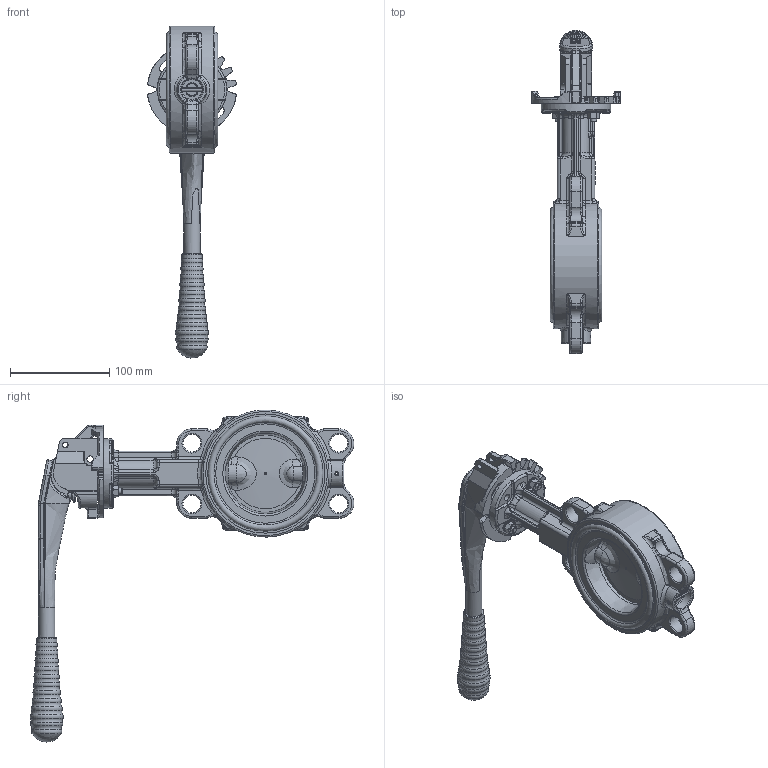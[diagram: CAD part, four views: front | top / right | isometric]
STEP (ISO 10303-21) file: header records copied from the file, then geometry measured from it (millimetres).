
FILE_DESCRIPTION((''),'2;1');
FILE_NAME('K:\Inventor\1 Artikel\10) Absperrklappen\10a) manuell\ABO Valve\890-GGG, 994B\890-GGG, DN80\890-GGG, DN80, 3D\890-GGG, DN80, PN6-16, HH, 3D.stp','2019-08-13T10:59:40',('claudia'),(''),'Autodesk Inventor 2013','Autodesk Inventor 2013','');
FILE_SCHEMA(('AUTOMOTIVE_DESIGN { 1 0 10303 214 1 1 1 1 }'));
Length unit declared in the file: millimetre
Products named in the file (1): Bauteil3
Bounding box: 89.17 x 325.91 x 334.17 mm (x, y, z)
Surface area: 155598.1 mm2
Topology: 8 solids, 9 shells, 2288 faces, 5942 edges, 3707 vertices
Faces by surface type: bspline 822, plane 736, cylinder 389, torus 218, cone 91, sphere 32
Full cylindrical faces by diameter (mm): 3.85 x1, 4 x2, 4.2 x1, 5 x2, 5.5 x2, 6 x4, 6.3 x2, 6.4 x2, 6.5 x2, 7 x4, 9.5 x1, 11.3 x2, 12 x3, 12.75 x2, 16 x4, 16.05 x1, 16.5 x2, 18 x4, 19 x1, 19.8 x1, 20 x1, 20.5 x1, 22 x2, 22.5 x1, 25 x1, 36 x1, 70 x1, 116 x2, 120 x2
Entity records: 103766 total; most frequent: CARTESIAN_POINT 54006, ORIENTED_EDGE 11392, DIRECTION 8032, EDGE_CURVE 5698, VERTEX_POINT 3651, AXIS2_PLACEMENT_3D 2922, EDGE_LOOP 2561, FACE_OUTER_BOUND 2287
